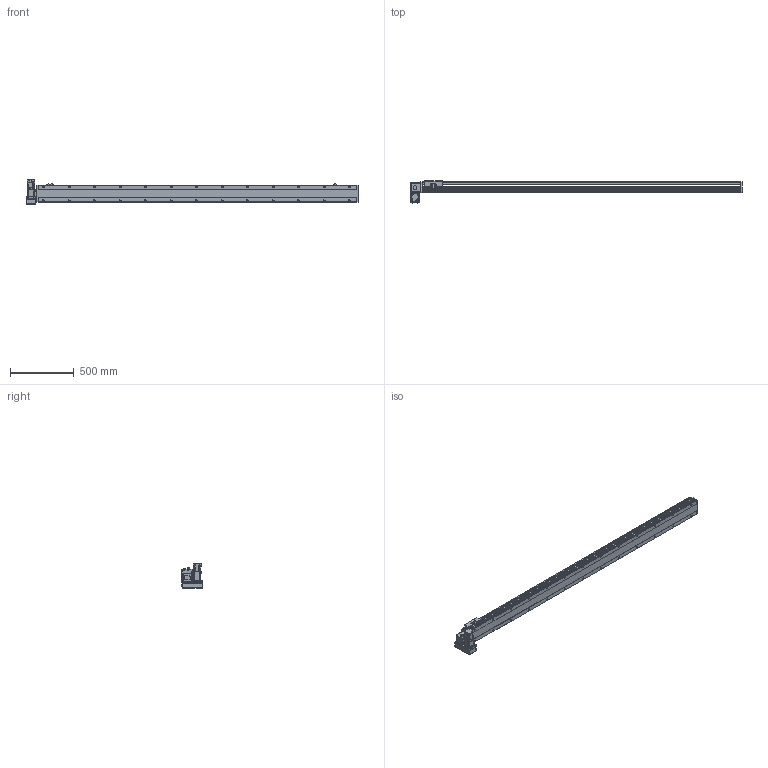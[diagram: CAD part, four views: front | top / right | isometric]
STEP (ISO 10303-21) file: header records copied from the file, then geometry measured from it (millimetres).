
FILE_DESCRIPTION(/* description */ ('STEP AP214'),/* implementation_level */ '2;1');
FILE_NAME(/* name */ 'PBS140S-P40-S2250-LD-T40-C1-N(0)',/* time_stamp */ '2022-06-09T02:28:46+02:00',/* author */ ('License CC BY-ND 4.0'),/* organization */ ('CADENAS'),/* preprocessor_version */ 'ST-DEVELOPER v18.102',/* originating_system */ 'PARTsolutions',/* authorisation */ ' ');
FILE_SCHEMA (('AUTOMOTIVE_DESIGN {1 0 10303 214 3 1 1}'));
Length unit declared in the file: millimetre
Products named in the file (7): PBS140S-P40-S2250-LD-T40-C1-N(0); PBS140S_sensor; PBS140S_plant; PBS140S_sliser; T40-p1; PBS140ST-LD_motors; PBS140S-S2250()_body
Assembly tree (8 placements, depth 2):
  PBS140S-P40-S2250-LD-T40-C1-N(0)
    PBS140S_sensor  x3
    PBS140S_plant
    PBS140S_sliser
    T40-p1
    PBS140ST-LD_motors
    PBS140S-S2250()_body
Bounding box: 2604 x 172.5 x 189.7 mm (x, y, z)
Volume: 12732996.3 mm3; surface area: 2149982.8 mm2
Topology: 8 solids, 8 shells, 1179 faces, 3111 edges, 2035 vertices
Faces by surface type: plane 732, cylinder 385, cone 52, sphere 8, torus 2
Full cylindrical faces by diameter (mm): 3.242 x4, 4 x2, 4.134 x4, 4.4 x8, 4.5 x2, 4.8 x4, 4.917 x34, 5.5 x7, 6 x2, 7 x28, 7.5 x8, 8 x12, 8.5 x4, 10.5 x26, 14 x1, 30 x2, 50 x2
Entity records: 33786 total; most frequent: CARTESIAN_POINT 6376, DIRECTION 5698, ORIENTED_EDGE 5362, EDGE_CURVE 2681, AXIS2_PLACEMENT_3D 2009, VERTEX_POINT 1873, LINE 1680, VECTOR 1680
